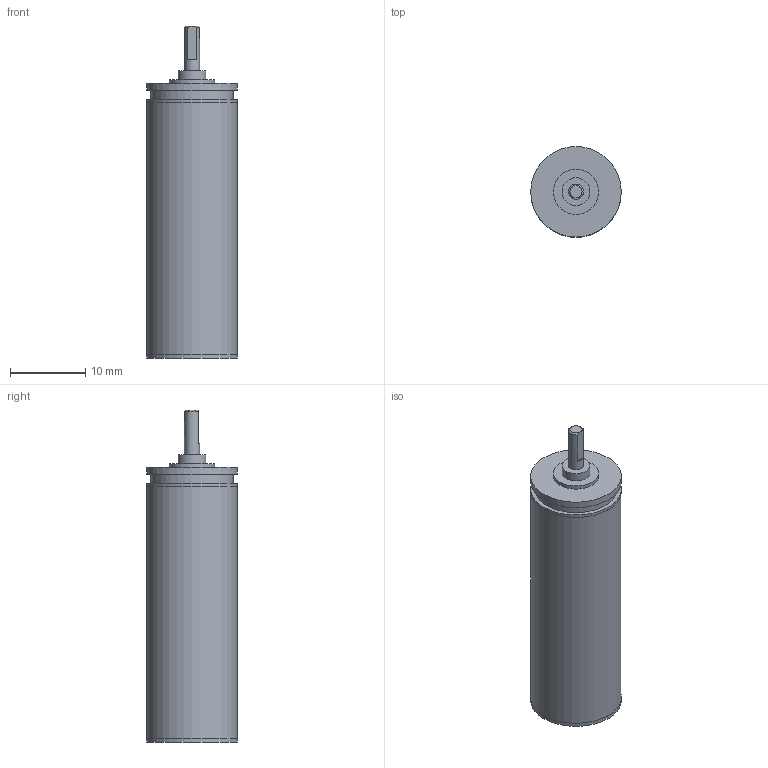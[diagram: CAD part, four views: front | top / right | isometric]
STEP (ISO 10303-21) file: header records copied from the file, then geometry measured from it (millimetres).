
FILE_DESCRIPTION(/* description */ (''),/* implementation_level */ '2;1');
FILE_NAME(/* name */ '12-3_13.stp',/* time_stamp */ '2016-08-24T10:15:59+02:00',/* author */ ('DR. FRITZ FAULHABER GmbH & Co. KG'),/* organization */ ('DR. FRITZ FAULHABER GmbH & Co. KG'),/* preprocessor_version */ 'ST-DEVELOPER v16',/* originating_system */ 'SIEMENS PLM Software NX 10.0',/* authorisation */ '');
FILE_SCHEMA (('AUTOMOTIVE_DESIGN { 1 0 10303 214 3 1 1 1 }'));
Length unit declared in the file: millimetre
Products named in the file (1): H00000576_A
Bounding box: 12 x 12 x 44 mm (x, y, z)
Volume: 4066.1 mm3; surface area: 1760.6 mm2
Topology: 1 solids, 1 shells, 32 faces, 52 edges, 34 vertices
Faces by surface type: plane 16, cylinder 14, cone 2
Full cylindrical faces by diameter (mm): 2 x1, 2.48 x1, 2.6 x1, 3.7 x1, 5 x1, 6 x2, 10.88 x1, 11.99 x2, 12 x4
Entity records: 692 total; most frequent: DIRECTION 129, CARTESIAN_POINT 115, ORIENTED_EDGE 70, AXIS2_PLACEMENT_3D 63, EDGE_LOOP 59, FACE_BOUND 54, EDGE_CURVE 35, ADVANCED_FACE 32
